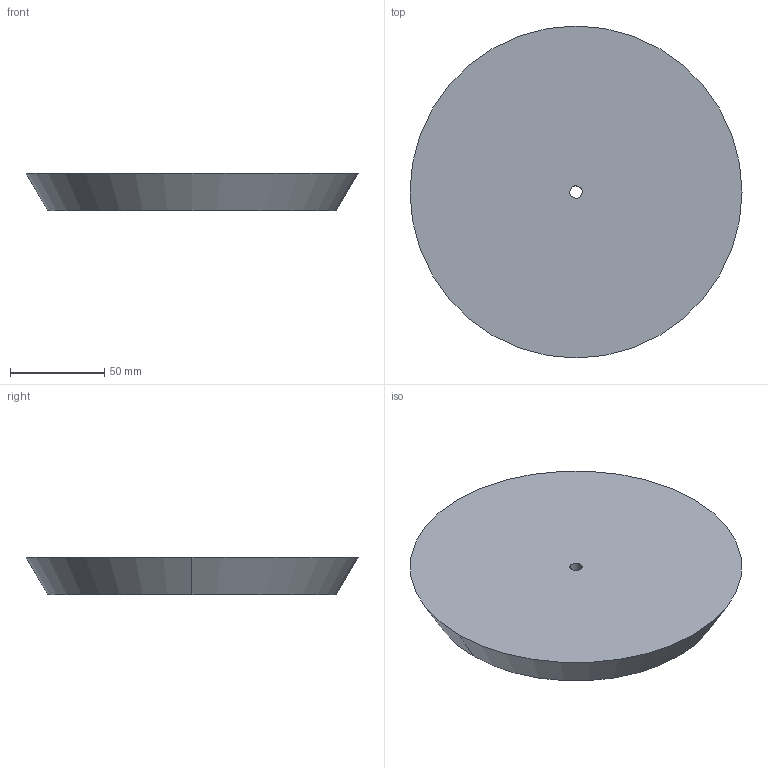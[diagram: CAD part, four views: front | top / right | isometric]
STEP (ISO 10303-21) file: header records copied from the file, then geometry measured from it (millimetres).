
FILE_DESCRIPTION(('CATIA V5 STEP Exchange'),'2;1');
FILE_NAME('C:\Users\andres.garcia\OneDrive - IQS\ASIGNATURAS\DAO\Controles\2223\c0\c1-ZAPATER_Carlos-tapon.stp','2023-02-03T08:22:07+00:00',('none'),('none'),'CATIA Version 5-6 Release 2013 SP6','CATIA V5 STEP AP203','none');
FILE_SCHEMA(('CONFIG_CONTROL_DESIGN'));
Length unit declared in the file: millimetre
Products named in the file (1): c1-ZAPATER_Carlos-tapon
Bounding box: 176 x 176 x 20 mm (x, y, z)
Volume: 424853 mm3; surface area: 54964.7 mm2
Topology: 1 solids, 1 shells, 6 faces, 12 edges, 8 vertices
Faces by surface type: cylinder 2, plane 2, cone 2
Entity records: 196 total; most frequent: CARTESIAN_POINT 26, ORIENTED_EDGE 24, DIRECTION 22, AXIS2_PLACEMENT_3D 14, EDGE_CURVE 12, CIRCLE 8, EDGE_LOOP 8, VERTEX_POINT 8
